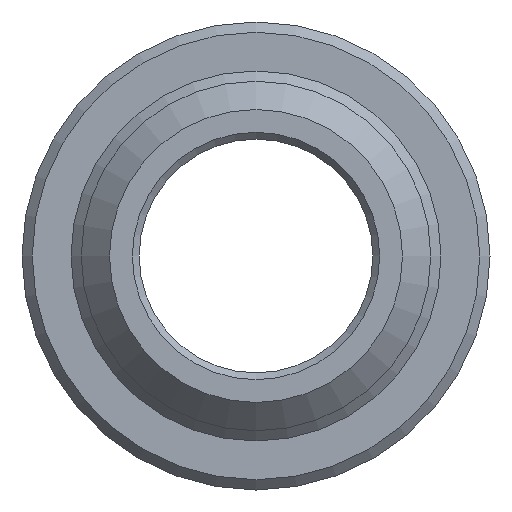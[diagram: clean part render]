
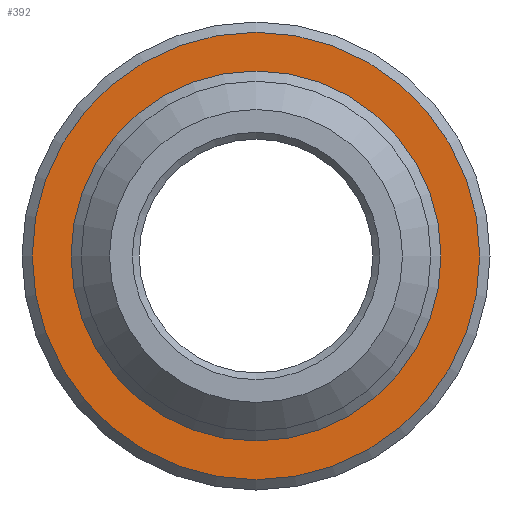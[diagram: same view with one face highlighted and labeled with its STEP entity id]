
A CAD part, front view. The second image highlights one B-rep face of the part: STEP entity #392.
In plain terms, the highlighted planar face has unit normal (0, -1, 0).
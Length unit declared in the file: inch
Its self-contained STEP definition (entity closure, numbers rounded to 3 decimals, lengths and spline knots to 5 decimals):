
#33=FACE_BOUND('',#86,.T.);
#44=PLANE('',#443);
#60=FACE_OUTER_BOUND('',#85,.T.);
#85=EDGE_LOOP('',(#316));
#86=EDGE_LOOP('',(#317));
#158=CIRCLE('',#442,0.27154);
#159=CIRCLE('',#444,0.3285);
#195=VERTEX_POINT('',#678);
#196=VERTEX_POINT('',#682);
#243=EDGE_CURVE('',#195,#195,#158,.T.);
#244=EDGE_CURVE('',#196,#196,#159,.T.);
#316=ORIENTED_EDGE('',*,*,#244,.F.);
#317=ORIENTED_EDGE('',*,*,#243,.F.);
#392=ADVANCED_FACE('',(#60,#33),#44,.T.);
#442=AXIS2_PLACEMENT_3D('',#680,#536,#537);
#443=AXIS2_PLACEMENT_3D('',#681,#538,#539);
#444=AXIS2_PLACEMENT_3D('',#683,#540,#541);
#536=DIRECTION('center_axis',(0.,-1.,0.));
#537=DIRECTION('ref_axis',(0.,0.,-1.));
#538=DIRECTION('center_axis',(0.,-1.,0.));
#539=DIRECTION('ref_axis',(0.,0.,-1.));
#540=DIRECTION('center_axis',(0.,1.,0.));
#541=DIRECTION('ref_axis',(0.,0.,1.));
#678=CARTESIAN_POINT('',(0.,1.5,0.27154));
#680=CARTESIAN_POINT('Origin',(0.,1.5,0.));
#681=CARTESIAN_POINT('Origin',(0.,1.5,-0.27));
#682=CARTESIAN_POINT('',(0.,1.5,-0.3285));
#683=CARTESIAN_POINT('Origin',(0.,1.5,0.));
